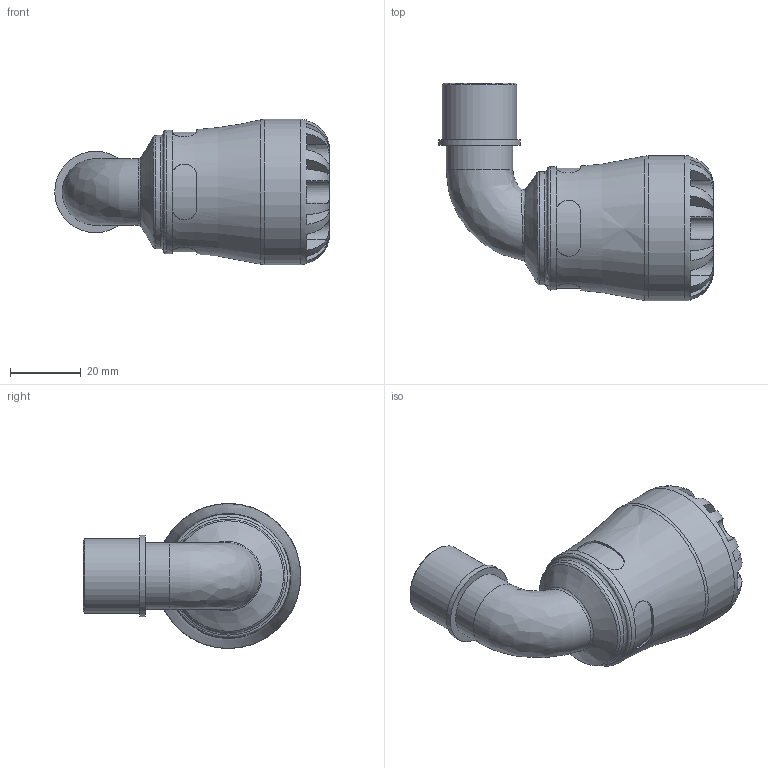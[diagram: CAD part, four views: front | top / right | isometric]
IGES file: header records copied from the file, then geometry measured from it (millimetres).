
Global section: file name: 108500020005_198500020005.ipt; native system: Autodesk Inventor 2015; preprocessor: unknown; author: KIM; date: 20170122.114943; units: millimetre
Bounding box: 77.53 x 61.5 x 41 mm (x, y, z)
Volume: 45606.9 mm3; surface area: 17150.7 mm2
Topology: 1 solids, 1 shells, 110 faces, 287 edges, 182 vertices
Faces by surface type: plane 61, revolution 26, cylinder 18, bspline 4, cone 1
Full cylindrical faces by diameter (mm): 18.86 x1, 20.955 x1, 23.05 x1, 31.98 x1, 34.85 x1, 41 x1
